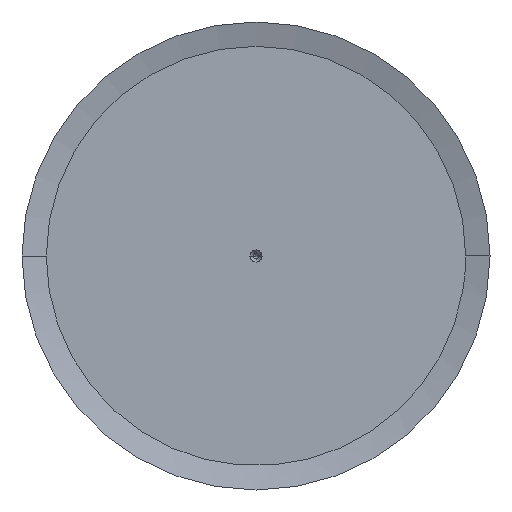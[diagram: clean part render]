
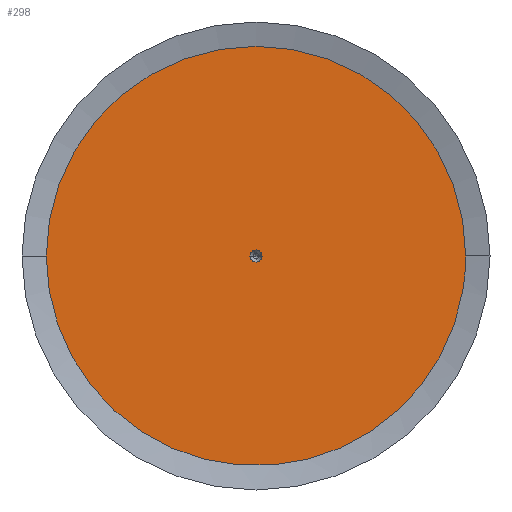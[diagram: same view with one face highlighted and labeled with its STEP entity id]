
A CAD part, left-side view. The second image highlights one B-rep face of the part: STEP entity #298.
In plain terms, the highlighted planar face has unit normal (-1, 0, 0).
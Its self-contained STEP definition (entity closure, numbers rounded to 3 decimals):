
#298=ADVANCED_FACE('',(#808,#809),#810,.T.);
#808=FACE_BOUND('',#1321,.T.);
#809=FACE_OUTER_BOUND('',#1322,.T.);
#810=PLANE('',#1323);
#1321=EDGE_LOOP('',(#3545,#3546));
#1322=EDGE_LOOP('',(#3547,#3548,#3549));
#1323=AXIS2_PLACEMENT_3D('',#3550,#3551,#3552);
#3545=ORIENTED_EDGE('',*,*,#3802,.T.);
#3546=ORIENTED_EDGE('',*,*,#3815,.T.);
#3547=ORIENTED_EDGE('',*,*,#3675,.T.);
#3548=ORIENTED_EDGE('',*,*,#4147,.T.);
#3549=ORIENTED_EDGE('',*,*,#3676,.T.);
#3550=CARTESIAN_POINT('',(0.0,0.0,0.0));
#3551=DIRECTION('',(-1.0,0.0,0.0));
#3552=DIRECTION('',(0.0,0.0,1.0));
#3675=EDGE_CURVE('',#4517,#4515,#4518,.T.);
#3676=EDGE_CURVE('',#4512,#4517,#4519,.T.);
#3802=EDGE_CURVE('',#4760,#4762,#4764,.T.);
#3815=EDGE_CURVE('',#4762,#4760,#4784,.T.);
#4147=EDGE_CURVE('',#4515,#4512,#5311,.T.);
#4512=VERTEX_POINT('',#6126);
#4515=VERTEX_POINT('',#6130);
#4517=VERTEX_POINT('',#6133);
#4518=CIRCLE('',#6134,69.0);
#4519=CIRCLE('',#6135,69.0);
#4760=VERTEX_POINT('',#6774);
#4762=VERTEX_POINT('',#6777);
#4764=CIRCLE('',#6780,2.0);
#4784=CIRCLE('',#6806,2.0);
#5311=CIRCLE('',#7807,69.0);
#6126=CARTESIAN_POINT('',(0.0,69.0,0.));
#6130=CARTESIAN_POINT('',(0.0,-69.0,0.));
#6133=CARTESIAN_POINT('',(0.0,-68.052,-11.4));
#6134=AXIS2_PLACEMENT_3D('',#8597,#8598,#8599);
#6135=AXIS2_PLACEMENT_3D('',#8600,#8601,#8602);
#6774=CARTESIAN_POINT('',(0.0,2.0,0.0));
#6777=CARTESIAN_POINT('',(0.0,-2.0,0.));
#6780=AXIS2_PLACEMENT_3D('',#8754,#8755,#8756);
#6806=AXIS2_PLACEMENT_3D('',#8781,#8782,#8783);
#7807=AXIS2_PLACEMENT_3D('',#9420,#9421,#9422);
#8597=CARTESIAN_POINT('',(0.0,0.0,0.0));
#8598=DIRECTION('',(-1.0,0.0,0.0));
#8599=DIRECTION('',(0.0,1.0,0.0));
#8600=CARTESIAN_POINT('',(0.0,0.0,0.0));
#8601=DIRECTION('',(-1.0,0.0,0.0));
#8602=DIRECTION('',(0.0,1.0,0.0));
#8754=CARTESIAN_POINT('',(0.0,0.0,0.0));
#8755=DIRECTION('',(1.0,0.0,0.0));
#8756=DIRECTION('',(0.0,1.0,0.0));
#8781=CARTESIAN_POINT('',(0.0,0.0,0.0));
#8782=DIRECTION('',(1.0,0.0,0.0));
#8783=DIRECTION('',(0.0,1.0,0.0));
#9420=CARTESIAN_POINT('',(0.0,0.0,0.0));
#9421=DIRECTION('',(-1.0,0.0,0.0));
#9422=DIRECTION('',(0.0,1.0,0.0));
